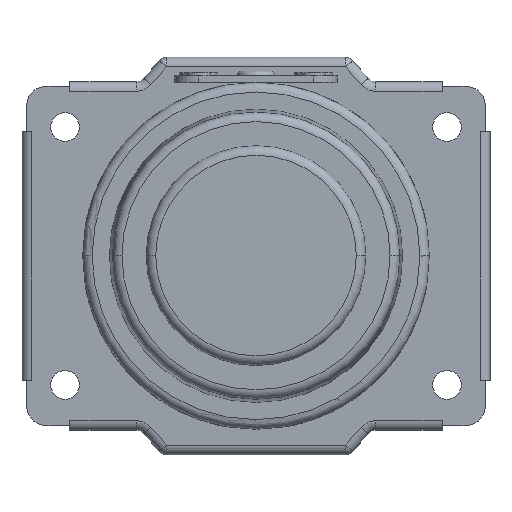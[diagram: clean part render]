
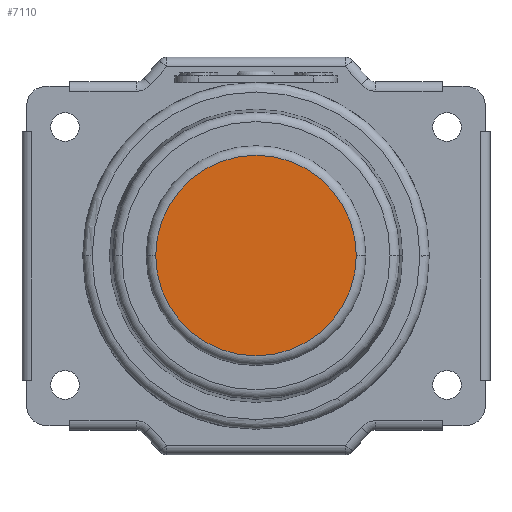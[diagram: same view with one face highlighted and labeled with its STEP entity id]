
A CAD part, top view. The second image highlights one B-rep face of the part: STEP entity #7110.
In plain terms, the highlighted planar face has unit normal (0, 0, 1) as drawn and (0, -1, 0) by its records, which use the part's own axes.
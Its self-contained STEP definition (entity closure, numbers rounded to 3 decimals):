
#6847=CARTESIAN_POINT('',(0.,0.,0.));
#6848=DIRECTION('',(0.,-1.,0.));
#6849=DIRECTION('',(-1.,0.,0.));
#6850=AXIS2_PLACEMENT_3D('',#6847,#6848,#6849);
#6855=CARTESIAN_POINT('',(0.,0.,0.));
#6856=DIRECTION('',(0.,-1.,0.));
#6857=DIRECTION('',(1.,0.,0.));
#6858=AXIS2_PLACEMENT_3D('',#6855,#6856,#6857);
#7083=CARTESIAN_POINT('',(-10.5,0.,0.));
#7084=CARTESIAN_POINT('',(10.5,0.,0.));
#7085=VERTEX_POINT('',#7083);
#7086=VERTEX_POINT('',#7084);
#7099=CARTESIAN_POINT('',(0.,0.,0.));
#7100=DIRECTION('',(0.,-1.,0.));
#7101=DIRECTION('',(-1.,0.,0.));
#7102=AXIS2_PLACEMENT_3D('',#7099,#7100,#7101);
#7103=PLANE('',#7102);
#7105=ORIENTED_EDGE('',*,*,#7104,.F.);
#7107=ORIENTED_EDGE('',*,*,#7106,.F.);
#7108=EDGE_LOOP('',(#7105,#7107));
#7109=FACE_OUTER_BOUND('',#7108,.F.);
#7110=ADVANCED_FACE('',(#7109),#7103,.T.);
#6851=CIRCLE('',#6850,10.5);
#6859=CIRCLE('',#6858,10.5);
#7104=EDGE_CURVE('',#7085,#7086,#6851,.T.);
#7106=EDGE_CURVE('',#7086,#7085,#6859,.T.);
